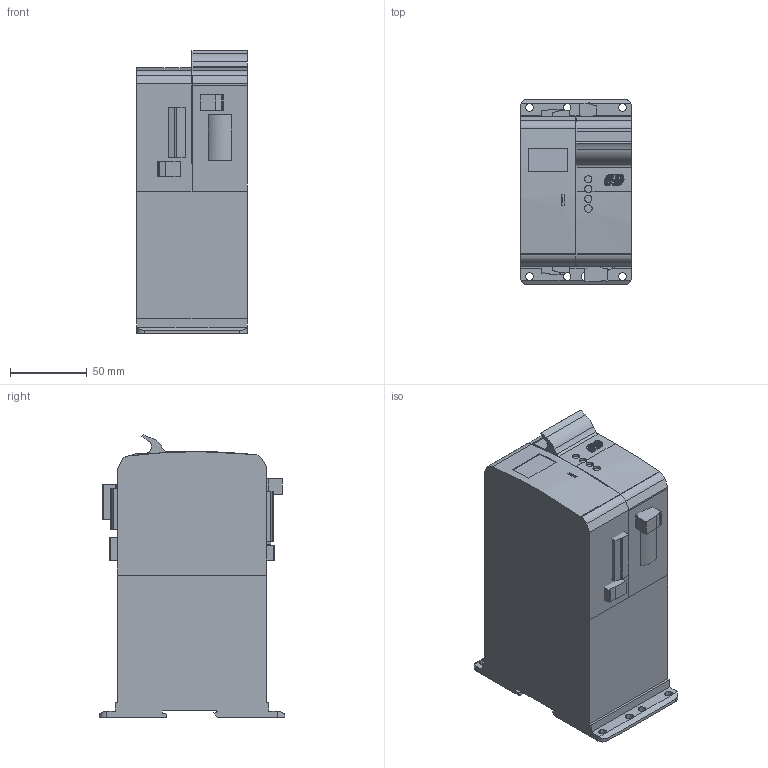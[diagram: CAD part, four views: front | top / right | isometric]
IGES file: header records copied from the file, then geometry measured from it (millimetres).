
Global section: file name: SR9 35-40A 1PH; native system: AutoCAD 2015 - Italiano (Italian); preprocessor: Autodesk Translation Framework DWG producer (atf_dwg_producer); organization: unknown; date: 20180116.162304; units: millimetre
Bounding box: 72 x 120.7 x 183.77 mm (x, y, z)
Volume: 1210078.9 mm3; surface area: 113406.4 mm2
Topology: 9 solids, 9 shells, 1011 faces, 2831 edges, 1886 vertices
Faces by surface type: bspline 1011
